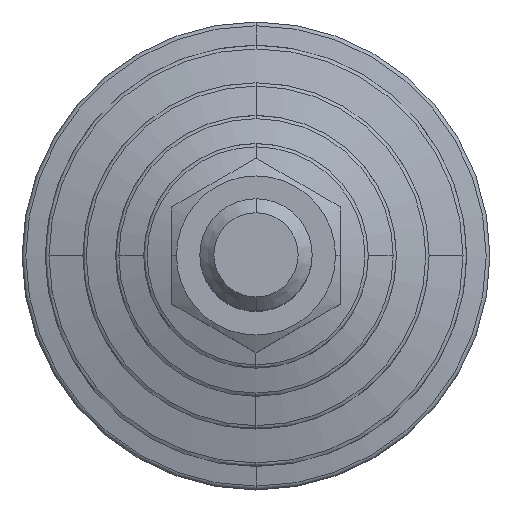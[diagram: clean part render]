
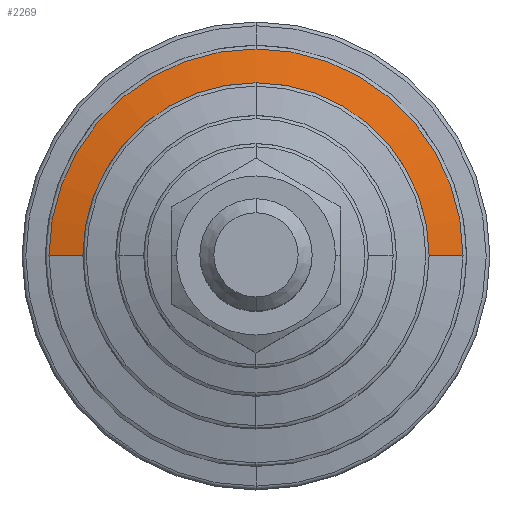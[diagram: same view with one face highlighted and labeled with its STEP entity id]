
A CAD part, top view. The second image highlights one B-rep face of the part: STEP entity #2269.
In plain terms, the highlighted conical face has half-angle 75.964 degrees and reference radius 37 mm.
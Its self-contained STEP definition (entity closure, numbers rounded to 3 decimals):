
#111 = EDGE_CURVE ( 'NONE', #2480, #1685, #950, .T. ) ;
#125 = EDGE_CURVE ( 'NONE', #427, #1197, #997, .T. ) ;
#132 = DIRECTION ( 'NONE',  ( 0., 0., 1. ) ) ;
#152 = DIRECTION ( 'NONE',  ( 0., 1., 0. ) ) ;
#248 = CARTESIAN_POINT ( 'NONE',  ( 0., 0., 14. ) ) ;
#427 = VERTEX_POINT ( 'NONE', #2730 ) ;
#483 = CARTESIAN_POINT ( 'NONE',  ( 37., 0., 14. ) ) ;
#535 = CARTESIAN_POINT ( 'NONE',  ( -37., 0., 14. ) ) ;
#538 = ORIENTED_EDGE ( 'NONE', *, *, #2607, .F. ) ;
#551 = CARTESIAN_POINT ( 'NONE',  ( 0., 0., 14. ) ) ;
#552 = CARTESIAN_POINT ( 'NONE',  ( -44.243, 0., 12.189 ) ) ;
#568 = ORIENTED_EDGE ( 'NONE', *, *, #125, .F. ) ;
#594 = DIRECTION ( 'NONE',  ( 0., 0., 1. ) ) ;
#680 = CONICAL_SURFACE ( 'NONE', #2281, 37., 1.326 ) ;
#700 = DIRECTION ( 'NONE',  ( 0., 0., -1. ) ) ;
#707 = VERTEX_POINT ( 'NONE', #552 ) ;
#805 = EDGE_LOOP ( 'NONE', ( #538, #568, #2746, #975, #1973 ) ) ;
#915 = VECTOR ( 'NONE', #2034, 1000. ) ;
#950 = CIRCLE ( 'NONE', #2049, 44.243 ) ;
#975 = ORIENTED_EDGE ( 'NONE', *, *, #111, .T. ) ;
#994 = CARTESIAN_POINT ( 'NONE',  ( -37., 0., 14. ) ) ;
#997 = CIRCLE ( 'NONE', #1554, 37. ) ;
#1013 = DIRECTION ( 'NONE',  ( 0., 1., 0. ) ) ;
#1058 = AXIS2_PLACEMENT_3D ( 'NONE', #2536, #132, #1013 ) ;
#1130 = DIRECTION ( 'NONE',  ( -0.97, 0., -0.243 ) ) ;
#1197 = VERTEX_POINT ( 'NONE', #994 ) ;
#1229 = EDGE_CURVE ( 'NONE', #1685, #707, #2588, .T. ) ;
#1313 = CARTESIAN_POINT ( 'NONE',  ( 44.243, 0., 12.189 ) ) ;
#1457 = EDGE_CURVE ( 'NONE', #427, #2480, #2476, .T. ) ;
#1554 = AXIS2_PLACEMENT_3D ( 'NONE', #551, #594, #152 ) ;
#1685 = VERTEX_POINT ( 'NONE', #2397 ) ;
#1694 = DIRECTION ( 'NONE',  ( 0., 0., 1. ) ) ;
#1781 = VECTOR ( 'NONE', #1130, 1000. ) ;
#1898 = CARTESIAN_POINT ( 'NONE',  ( 0., 0., 12.189 ) ) ;
#1911 = DIRECTION ( 'NONE',  ( 0., 1., 0. ) ) ;
#1973 = ORIENTED_EDGE ( 'NONE', *, *, #1229, .T. ) ;
#2034 = DIRECTION ( 'NONE',  ( 0.97, 0., -0.243 ) ) ;
#2049 = AXIS2_PLACEMENT_3D ( 'NONE', #1898, #1694, #1911 ) ;
#2206 = FACE_OUTER_BOUND ( 'NONE', #805, .T. ) ;
#2261 = LINE ( 'NONE', #535, #1781 ) ;
#2269 = ADVANCED_FACE ( 'NONE', ( #2206 ), #680, .T. ) ;
#2281 = AXIS2_PLACEMENT_3D ( 'NONE', #248, #700, #2635 ) ;
#2397 = CARTESIAN_POINT ( 'NONE',  ( 0., 44.243, 12.189 ) ) ;
#2476 = LINE ( 'NONE', #483, #915 ) ;
#2480 = VERTEX_POINT ( 'NONE', #1313 ) ;
#2536 = CARTESIAN_POINT ( 'NONE',  ( 0., 0., 12.189 ) ) ;
#2588 = CIRCLE ( 'NONE', #1058, 44.243 ) ;
#2607 = EDGE_CURVE ( 'NONE', #1197, #707, #2261, .T. ) ;
#2635 = DIRECTION ( 'NONE',  ( 1., 0., 0. ) ) ;
#2730 = CARTESIAN_POINT ( 'NONE',  ( 37., 0., 14. ) ) ;
#2746 = ORIENTED_EDGE ( 'NONE', *, *, #1457, .T. ) ;
